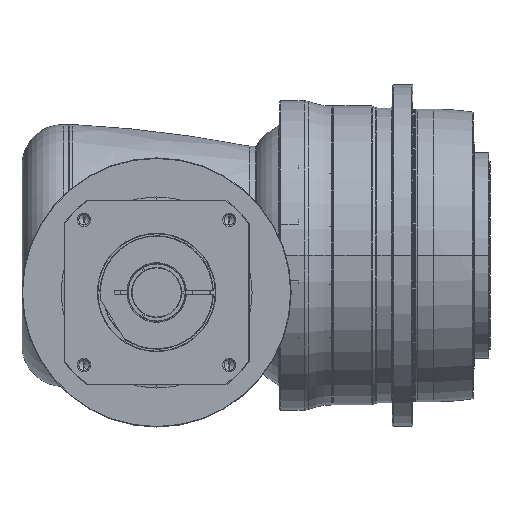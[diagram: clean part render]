
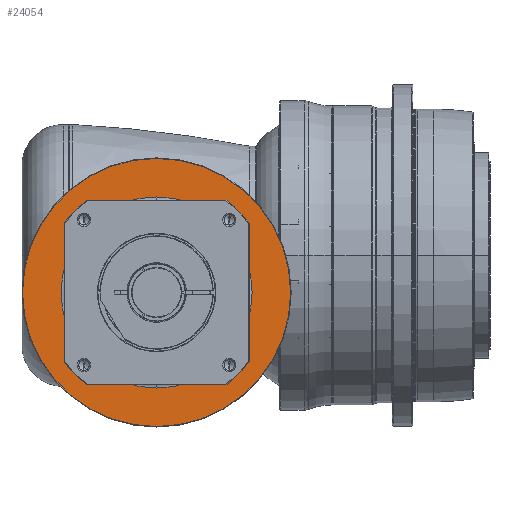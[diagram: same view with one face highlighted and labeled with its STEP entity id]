
A CAD part, front view. The second image highlights one B-rep face of the part: STEP entity #24054.
In plain terms, the highlighted planar face has unit normal (0, -1, 0) as drawn and (1, 0, 0) by its records, which use the part's own axes.
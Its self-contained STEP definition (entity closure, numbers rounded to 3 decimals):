
#22743=CARTESIAN_POINT('',(-9.5,0.,0.));
#22744=DIRECTION('',(-1.,0.,0.));
#22745=DIRECTION('',(0.,-1.,0.));
#22746=AXIS2_PLACEMENT_3D('',#22743,#22744,#22745);
#22748=CARTESIAN_POINT('',(-9.5,0.,0.));
#22749=DIRECTION('',(-1.,0.,0.));
#22750=DIRECTION('',(0.,1.,0.));
#22751=AXIS2_PLACEMENT_3D('',#22748,#22749,#22750);
#22753=CARTESIAN_POINT('',(-9.5,0.,0.));
#22754=DIRECTION('',(-1.,0.,0.));
#22755=DIRECTION('',(0.,-1.,0.));
#22756=AXIS2_PLACEMENT_3D('',#22753,#22754,#22755);
#22758=CARTESIAN_POINT('',(-9.5,0.,0.));
#22759=DIRECTION('',(-1.,0.,0.));
#22760=DIRECTION('',(0.,1.,0.));
#22761=AXIS2_PLACEMENT_3D('',#22758,#22759,#22760);
#23031=CARTESIAN_POINT('',(-9.5,-130.5,0.));
#23032=CARTESIAN_POINT('',(-9.5,130.5,0.));
#23033=VERTEX_POINT('',#23031);
#23034=VERTEX_POINT('',#23032);
#23089=CARTESIAN_POINT('',(-9.5,-93.,0.));
#23090=CARTESIAN_POINT('',(-9.5,93.,0.));
#23091=VERTEX_POINT('',#23089);
#23092=VERTEX_POINT('',#23090);
#24039=CARTESIAN_POINT('',(-9.5,0.,0.));
#24040=DIRECTION('',(1.,0.,0.));
#24041=DIRECTION('',(0.,-1.,0.));
#24042=AXIS2_PLACEMENT_3D('',#24039,#24040,#24041);
#24043=PLANE('',#24042);
#24044=ORIENTED_EDGE('',*,*,#23995,.T.);
#24045=ORIENTED_EDGE('',*,*,#23980,.T.);
#24046=EDGE_LOOP('',(#24044,#24045));
#24047=FACE_OUTER_BOUND('',#24046,.F.);
#24049=ORIENTED_EDGE('',*,*,#24048,.F.);
#24051=ORIENTED_EDGE('',*,*,#24050,.F.);
#24052=EDGE_LOOP('',(#24049,#24051));
#24053=FACE_BOUND('',#24052,.F.);
#24054=ADVANCED_FACE('',(#24047,#24053),#24043,.T.);
#22747=CIRCLE('',#22746,93.);
#22752=CIRCLE('',#22751,93.);
#22757=CIRCLE('',#22756,130.5);
#22762=CIRCLE('',#22761,130.5);
#23980=EDGE_CURVE('',#23034,#23033,#22762,.T.);
#23995=EDGE_CURVE('',#23033,#23034,#22757,.T.);
#24048=EDGE_CURVE('',#23091,#23092,#22747,.T.);
#24050=EDGE_CURVE('',#23092,#23091,#22752,.T.);
